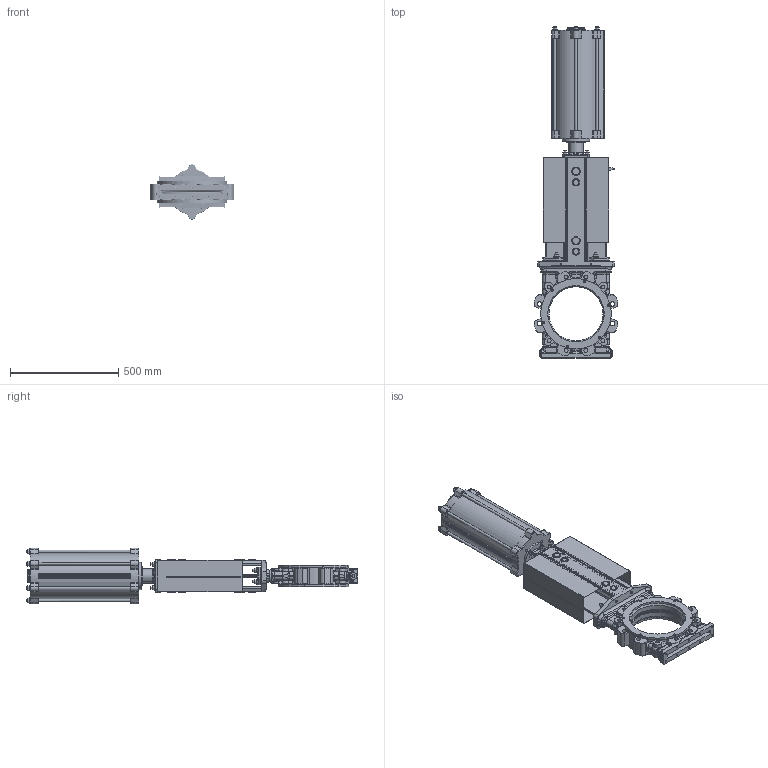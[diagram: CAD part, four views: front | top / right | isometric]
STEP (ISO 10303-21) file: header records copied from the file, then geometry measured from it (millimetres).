
FILE_DESCRIPTION(/* description */ (''),/* implementation_level */ '2;1');
FILE_NAME(/* name */ 'F:\3D-block färdiga för export\SLV-SLF\DN 250\SLV-DN250-PN10-FRSC200-320-LDR.stp',/* time_stamp */ '2021-06-16T14:49:21+02:00',/* author */ ('MATZET'),/* organization */ (''),/* preprocessor_version */ 'ST-DEVELOPER v18',/* originating_system */ 'Autodesk Inventor 2020',/* authorisation */ '');
FILE_SCHEMA (('AUTOMOTIVE_DESIGN { 1 0 10303 214 3 1 1 }'));
Products named in the file (1): SLV-DN250-PN10-FRSC200-320-LDR_Shrinkwrap_1
Bounding box: 387.52 x 1532.5 x 256 mm (x, y, z)
Volume: 14955500.6 mm3; surface area: 3708360.5 mm2
Topology: 1 solids, 1 shells, 3433 faces, 8661 edges, 5410 vertices
Faces by surface type: plane 1195, cylinder 941, bspline 399, cone 374, torus 372, sphere 152
Full cylindrical faces by diameter (mm): 3 x12, 4 x2, 4.2 x16, 4.5 x8, 4.917 x12, 6 x12, 6.75 x10, 7.5 x12, 8 x12, 8.88 x1, 9.5 x2, 10 x21, 10.106 x2, 11 x12, 12 x38, 13 x22, 13.835 x4, 14.63 x4, 15 x8, 17.5 x16, 18 x2, 18.631 x2, 19 x4, 20.5 x1, 22 x4, 23 x4, 24 x19, 25 x2, 26.44 x2, 26.5 x2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
Entity records: 131886 total; most frequent: CARTESIAN_POINT 47052, DIRECTION 17659, ORIENTED_EDGE 17186, EDGE_CURVE 8593, AXIS2_PLACEMENT_3D 7377, VERTEX_POINT 5410, CIRCLE 4005, EDGE_LOOP 3829
